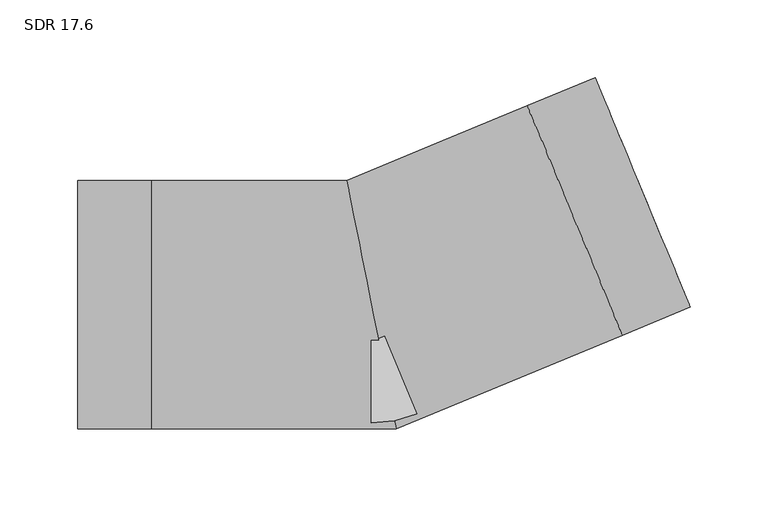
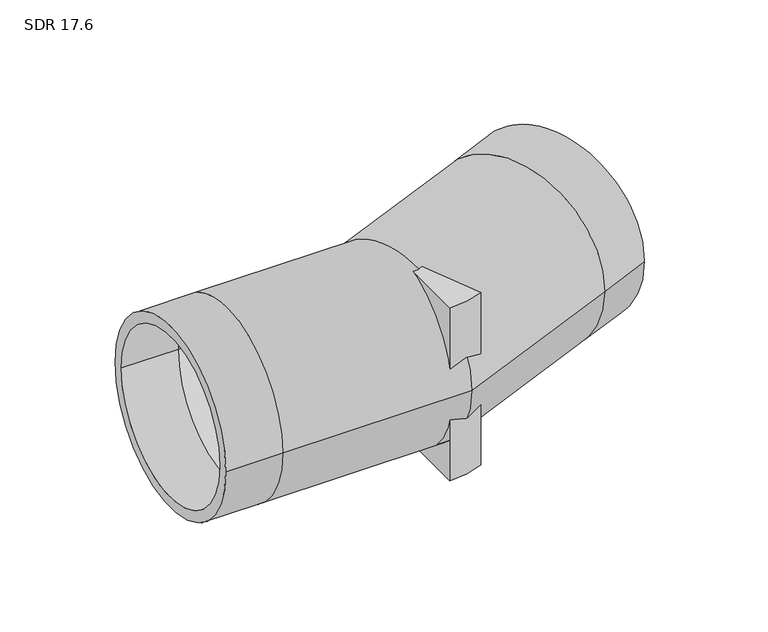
"""IFC4 building model written with IfcOpenShell, lengths in millimetres: pipe fitting geometry, Aquatherm - Elbow Blue BW Segmented : SDR 17.6."""

from ifc_helpers import new_model, si_unit, point, frame, origin, origin_with_axes, origin_2d, place, context, project, spatial, polyline, circle_curve, ellipse_curve, trimmed, segment, composite_curve, outline, extrude, source, transform, mapped, element, save
from ifc_brep_helpers import plane_surface, cylinder_surface, revolved_surface, advanced_brep


def sdr_17_6_ac3d789a(model_context):
    return source(origin(), model_context, "Body", "SolidModel", [
        extrude(outline(composite_curve([segment(polyline([(0.0, -76.2), (0.0, 0.0), (29.1604775, -70.3996204)]), True, "CONTINUOUS"), segment(trimmed(circle_curve(origin_2d(), 76.2), [point((29.1604775, -70.3996204))], [point((0.0, -76.2))], False, "CARTESIAN"), True, "CONTINUOUS")], self_intersect=False)), frame((0.0, 0.0, -76.2), z_axis=(0.0, 0.0, 1.0), x_axis=(1.0, 0.0, 0.0)), (0.0, 0.0, 1.0), 76.2),
        extrude(outline(composite_curve([segment(trimmed(circle_curve(origin_2d(), 76.2), [point((29.1604775, -70.3996204))], [point((0.0, -76.2))], False, "CARTESIAN"), True, "CONTINUOUS"), segment(polyline([(0.0, -76.2), (0.0, 0.0), (29.1604775, -70.3996204)]), True, "CONTINUOUS")], self_intersect=False)), origin_with_axes(), (0.0, 0.0, 1.0), 76.2),
        advanced_brep(
        [(-188.976, -80.01, 0.0), (-188.976, 80.01, 0.0), (-188.976, -70.9187617, 0.0), (-188.976, 70.9187617, 0.0), (205.20956, -1.6016171, 0.0), (143.9725571, 146.2375857, 0.0), (201.7304937, 6.797592, 0.0), (147.4516234, 137.8383767, 0.0), (-141.732, -80.01, 0.0), (-141.732, 80.01, 0.0), (-141.732, -70.9187617, 0.0), (-141.732, 70.9187617, 0.0), (15.9149785, -80.01, 0.0), (-15.9149785, 80.01, 0.0), (14.1066188, -70.9187617, 0.0), (-14.1066188, 70.9187617, 0.0), (161.5617953, -19.6811132, 0.0), (100.3247925, 128.1580896, 0.0), (158.082729, -11.2819041, 0.0), (103.8038588, 119.7588806, 0.0)],
        [
            (0, 1, circle_curve(frame((-188.976, 0.0, 0.0), z_axis=(-1.0, 0.0, 0.0), x_axis=(0.0, 1.0, 0.0)), 80.01)),
            (1, 0, circle_curve(frame((-188.976, 0.0, 0.0), z_axis=(-1.0, 0.0, 0.0), x_axis=(0.0, 1.0, 0.0)), 80.01)),
            (2, 3, circle_curve(frame((-188.976, 0.0, 0.0), z_axis=(1.0, 0.0, 0.0), x_axis=(0.0, 1.0, 0.0)), 70.9187617)),
            (3, 2, circle_curve(frame((-188.976, 0.0, 0.0), z_axis=(1.0, 0.0, 0.0), x_axis=(0.0, 1.0, 0.0)), 70.9187617)),
            (4, 5, circle_curve(frame((174.5910585, 72.3179843, 0.0), z_axis=(0.9238795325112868, 0.3826834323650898, 0.0), x_axis=(-0.3826834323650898, 0.9238795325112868, 0.0)), 80.01)),
            (5, 4, circle_curve(frame((174.5910585, 72.3179843, 0.0), z_axis=(0.9238795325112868, 0.3826834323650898, 0.0), x_axis=(-0.3826834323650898, 0.9238795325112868, 0.0)), 80.01)),
            (6, 7, circle_curve(frame((174.5910585, 72.3179843, 0.0), z_axis=(-0.9238795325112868, -0.3826834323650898, 0.0), x_axis=(-0.3826834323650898, 0.9238795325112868, 0.0)), 70.9187617)),
            (7, 6, circle_curve(frame((174.5910585, 72.3179843, 0.0), z_axis=(-0.9238795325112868, -0.3826834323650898, 0.0), x_axis=(-0.3826834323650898, 0.9238795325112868, 0.0)), 70.9187617)),
            (0, 8),
            (8, 9, circle_curve(frame((-141.732, 0.0, 0.0), z_axis=(-1.0, 0.0, 0.0), x_axis=(0.0, 1.0, 0.0)), 80.01)),
            (9, 1),
            (9, 8, circle_curve(frame((-141.732, 0.0, 0.0), z_axis=(-1.0, 0.0, 0.0), x_axis=(0.0, 1.0, 0.0)), 80.01)),
            (2, 10),
            (10, 11, circle_curve(frame((-141.732, 0.0, 0.0), z_axis=(1.0, 0.0, 0.0), x_axis=(0.0, 1.0, 0.0)), 70.9187617)),
            (11, 3),
            (11, 10, circle_curve(frame((-141.732, 0.0, 0.0), z_axis=(1.0, 0.0, 0.0), x_axis=(0.0, 1.0, 0.0)), 70.9187617)),
            (8, 12),
            (12, 13, ellipse_curve(frame((0.0, 0.0, 0.0), z_axis=(-0.9807852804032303, -0.19509032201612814, 0.0), x_axis=(-0.19509032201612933, 0.9807852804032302, 0.0)), 81.5774886, 80.01)),
            (13, 9),
            (13, 12, ellipse_curve(frame((0.0, 0.0, 0.0), z_axis=(-0.9807852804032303, -0.19509032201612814, 0.0), x_axis=(-0.19509032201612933, 0.9807852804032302, 0.0)), 81.5774886, 80.01)),
            (10, 14),
            (14, 15, ellipse_curve(frame((0.0, 0.0, 0.0), z_axis=(0.9807852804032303, 0.19509032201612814, 0.0), x_axis=(0.19509032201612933, -0.9807852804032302, 0.0)), 72.3081423, 70.9187617)),
            (15, 11),
            (15, 14, ellipse_curve(frame((0.0, 0.0, 0.0), z_axis=(0.9807852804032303, 0.19509032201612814, 0.0), x_axis=(0.19509032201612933, -0.9807852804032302, 0.0)), 72.3081423, 70.9187617)),
            (12, 16),
            (16, 17, circle_curve(frame((130.9432939, 54.2384882, 0.0), z_axis=(-0.9238795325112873, -0.3826834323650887, 0.0), x_axis=(-0.3826834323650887, 0.9238795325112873, 0.0)), 80.01)),
            (17, 13),
            (17, 16, circle_curve(frame((130.9432939, 54.2384882, 0.0), z_axis=(-0.9238795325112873, -0.3826834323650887, 0.0), x_axis=(-0.3826834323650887, 0.9238795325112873, 0.0)), 80.01)),
            (14, 18),
            (18, 19, circle_curve(frame((130.9432939, 54.2384882, 0.0), z_axis=(0.9238795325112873, 0.3826834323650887, 0.0), x_axis=(-0.3826834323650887, 0.9238795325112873, 0.0)), 70.9187617)),
            (19, 15),
            (19, 18, circle_curve(frame((130.9432939, 54.2384882, 0.0), z_axis=(0.9238795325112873, 0.3826834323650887, 0.0), x_axis=(-0.3826834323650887, 0.9238795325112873, 0.0)), 70.9187617)),
            (16, 4),
            (5, 17),
            (18, 6),
            (7, 19),
        ],
        [
            plane_surface(frame((-188.976, 0.0, 0.0), z_axis=(-1.0, 0.0, 0.0), x_axis=(0.0, 0.0, 1.0))),
            plane_surface(frame((174.5910585, 72.3179843, 0.0), z_axis=(0.9238795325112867, 0.38268343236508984, 0.0), x_axis=(0.0, 0.0, 1.0))),
            cylinder_surface(frame((-188.976, 0.0, 0.0), z_axis=(-1.0, 0.0, 0.0), x_axis=(0.0, 1.0, 0.0)), 80.01),
            revolved_surface(polyline([(-141.732, 70.9187617, 0.0), (-188.976, 70.9187617, 0.0)]), (-188.976, 0.0, 0.0), (1.0, 0.0, 0.0)),
            cylinder_surface(frame((-141.732, 0.0, 0.0), z_axis=(-1.0, 0.0, 0.0), x_axis=(0.0, 1.0, 0.0)), 80.01),
            revolved_surface(polyline([(14.106618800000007, 70.9187617, 0.0), (-141.732, 70.9187617, 0.0)]), (-141.732, 0.0, 0.0), (1.0, 0.0, 0.0)),
            cylinder_surface(frame((0.0, 0.0, 0.0), z_axis=(-0.9238795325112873, -0.3826834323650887, 0.0), x_axis=(-0.3826834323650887, 0.9238795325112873, 0.0)), 80.01),
            revolved_surface(polyline([(103.8038587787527, 119.75888065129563, 0.0), (-40.17225149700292, 60.122023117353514, 0.0)]), (0.0, 0.0, 0.0), (0.9238795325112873, 0.3826834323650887, 0.0)),
            cylinder_surface(frame((130.9432939, 54.2384882, 0.0), z_axis=(-0.9238795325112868, -0.3826834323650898, 0.0), x_axis=(-0.3826834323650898, 0.9238795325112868, 0.0)), 80.01),
            revolved_surface(polyline([(147.4516234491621, 137.83837670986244, 0.0), (103.8038587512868, 119.7588806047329, 0.0)]), (130.9432939, 54.2384882, 0.0), (0.9238795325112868, 0.3826834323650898, 0.0)),
        ],
        [
            (0, [[1, 2], [3, 4]]),
            (1, [[5, 6], [7, 8]]),
            (2, [[-1, 9, 10, 11]]),
            (2, [[-2, -11, 12, -9]]),
            (3, [[-3, 13, 14, 15]]),
            (3, [[-4, -15, 16, -13]]),
            (4, [[-10, 17, 18, 19]]),
            (4, [[-12, -19, 20, -17]]),
            (5, [[-14, 21, 22, 23]]),
            (5, [[-16, -23, 24, -21]]),
            (6, [[-18, 25, 26, 27]]),
            (6, [[-20, -27, 28, -25]]),
            (7, [[-22, 29, 30, 31]]),
            (7, [[-24, -31, 32, -29]]),
            (8, [[-26, 33, -6, 34]]),
            (8, [[-28, -34, -5, -33]]),
            (9, [[-30, 35, -8, 36]]),
            (9, [[-32, -36, -7, -35]]),
        ],
    ),
    ])


if __name__ == "__main__":
    model = new_model("IFC4")
    model_context = context("Model", 3, world=origin())
    ifc_project = project(units=[si_unit("LENGTHUNIT", "METRE", prefix="MILLI")], contexts=[model_context])
    site = spatial("IfcSite", under=ifc_project)
    building = spatial("IfcBuilding", under=site)
    placement = place(None, origin())
    sdr_17_6_shape = sdr_17_6_ac3d789a(model_context)
    element("IfcPipeFitting", 1, ObjectType="Aquatherm - Elbow Blue BW Segmented : SDR 17.6", at=placement, inside=building, context=model_context, shape_type="MappedRepresentation", body=[
        mapped(sdr_17_6_shape, transform((0.0, 0.0, 0.0), x_axis=(1.0, 0.0, 0.0), y_axis=(0.0, 1.0, 0.0), z_axis=(0.0, 0.0, 1.0))),
    ])
    save(model, "model.ifc")
